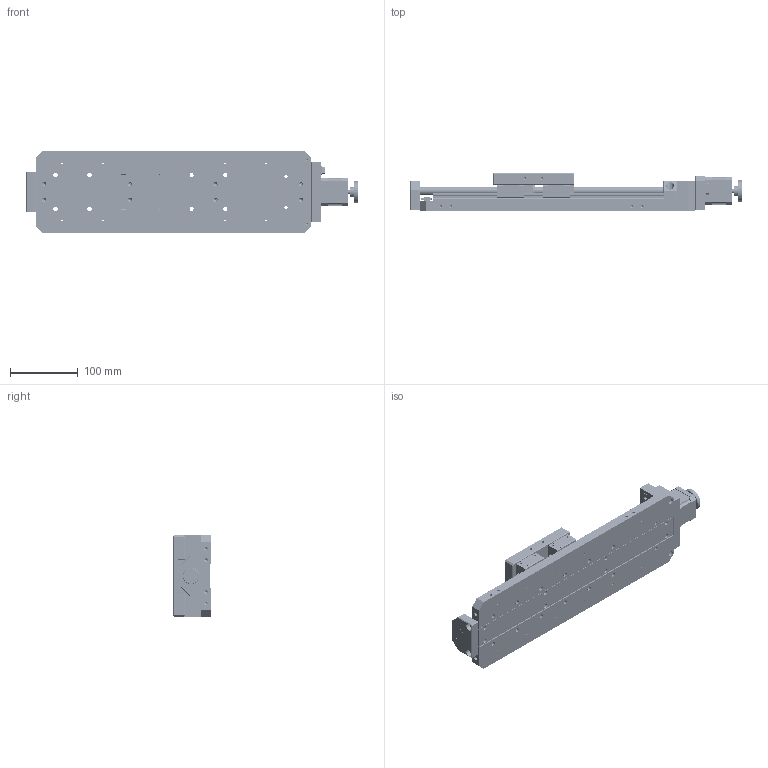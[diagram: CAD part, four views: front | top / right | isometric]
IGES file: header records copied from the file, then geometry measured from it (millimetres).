
Start section: SolidWorks IGES file using analytic representation for surfaces
Global section: file name: C:\Users\dubin\Desktop\9.18\PT-GD140G(200)\PT-GD140G(200).IGS; native system: SolidWorks 2017; preprocessor: SolidWorks 2017; author: PDV; date: 220918.111835; units: millimetre
Bounding box: 489 x 55 x 120 mm (x, y, z)
Surface area: 385882.2 mm2 (no closed solid volume)
Topology: 0 solids, 0 shells, 2668 faces, 37596 edges, 37339 vertices
Faces by surface type: bspline 1452, revolution 1216
